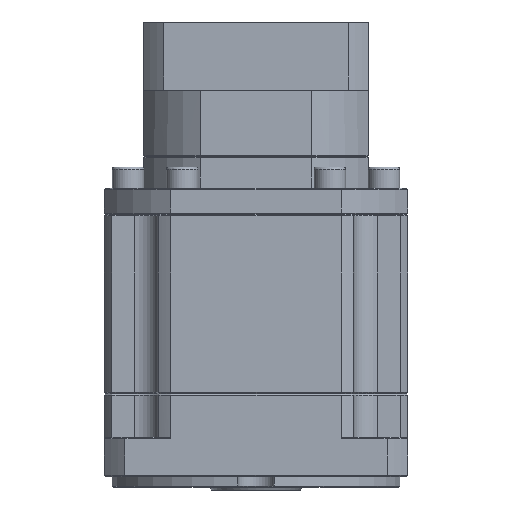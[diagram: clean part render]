
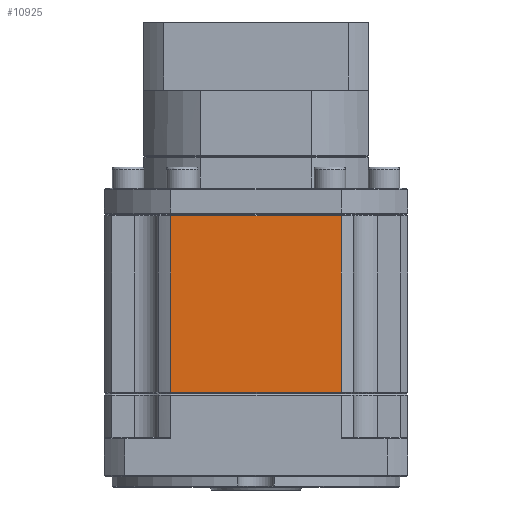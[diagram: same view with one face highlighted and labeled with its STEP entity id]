
A CAD part, left-side view. The second image highlights one B-rep face of the part: STEP entity #10925.
In plain terms, the highlighted planar face has unit normal (-1, 0, 0).
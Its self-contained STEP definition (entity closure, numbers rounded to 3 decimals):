
#9843 = ORIENTED_EDGE ( 'NONE', *, *, #100806, .F. ) ;
#10576 = PLANE ( 'NONE',  #60747 ) ;
#10925 = ADVANCED_FACE ( 'NONE', ( #95216 ), #10576, .F. ) ;
#14749 = VECTOR ( 'NONE', #93129, 1000. ) ;
#17747 = CARTESIAN_POINT ( 'NONE',  ( 24.472, 79.009, -161.235 ) ) ;
#22629 = VECTOR ( 'NONE', #49777, 1000. ) ;
#33622 = CARTESIAN_POINT ( 'NONE',  ( 24.472, 46.609, -94.235 ) ) ;
#33859 = ORIENTED_EDGE ( 'NONE', *, *, #34587, .F. ) ;
#34587 = EDGE_CURVE ( 'NONE', #35054, #79565, #67074, .T. ) ;
#35054 = VERTEX_POINT ( 'NONE', #131285 ) ;
#38854 = VECTOR ( 'NONE', #105157, 1000. ) ;
#43669 = DIRECTION ( 'NONE',  ( 0., 1., 0. ) ) ;
#44835 = DIRECTION ( 'NONE',  ( 0., 1., 0. ) ) ;
#49777 = DIRECTION ( 'NONE',  ( 0., 0., 1. ) ) ;
#56579 = VECTOR ( 'NONE', #44835, 1000. ) ;
#60747 = AXIS2_PLACEMENT_3D ( 'NONE', #63271, #83694, #43669 ) ;
#62106 = EDGE_LOOP ( 'NONE', ( #9843, #33859, #63443, #106294 ) ) ;
#63271 = CARTESIAN_POINT ( 'NONE',  ( 24.472, -10.891, -93.735 ) ) ;
#63443 = ORIENTED_EDGE ( 'NONE', *, *, #92415, .F. ) ;
#66241 = CARTESIAN_POINT ( 'NONE',  ( 24.472, -10.891, -161.235 ) ) ;
#67074 = LINE ( 'NONE', #93573, #14749 ) ;
#70256 = CARTESIAN_POINT ( 'NONE',  ( 24.472, 79.009, -93.735 ) ) ;
#71622 = EDGE_CURVE ( 'NONE', #73436, #97815, #99000, .T. ) ;
#73436 = VERTEX_POINT ( 'NONE', #17747 ) ;
#77702 = CARTESIAN_POINT ( 'NONE',  ( 24.472, 79.009, -94.235 ) ) ;
#79565 = VERTEX_POINT ( 'NONE', #102859 ) ;
#83620 = LINE ( 'NONE', #66241, #56579 ) ;
#83694 = DIRECTION ( 'NONE',  ( 1., 0., 0. ) ) ;
#92415 = EDGE_CURVE ( 'NONE', #97815, #35054, #94563, .T. ) ;
#93129 = DIRECTION ( 'NONE',  ( 0., 0., -1. ) ) ;
#93573 = CARTESIAN_POINT ( 'NONE',  ( 24.472, 14.209, -93.735 ) ) ;
#94563 = LINE ( 'NONE', #33622, #38854 ) ;
#95216 = FACE_OUTER_BOUND ( 'NONE', #62106, .T. ) ;
#97815 = VERTEX_POINT ( 'NONE', #77702 ) ;
#99000 = LINE ( 'NONE', #70256, #22629 ) ;
#100806 = EDGE_CURVE ( 'NONE', #79565, #73436, #83620, .T. ) ;
#102859 = CARTESIAN_POINT ( 'NONE',  ( 24.472, 14.209, -161.235 ) ) ;
#105157 = DIRECTION ( 'NONE',  ( 0., -1., 0. ) ) ;
#106294 = ORIENTED_EDGE ( 'NONE', *, *, #71622, .F. ) ;
#131285 = CARTESIAN_POINT ( 'NONE',  ( 24.472, 14.209, -94.235 ) ) ;
